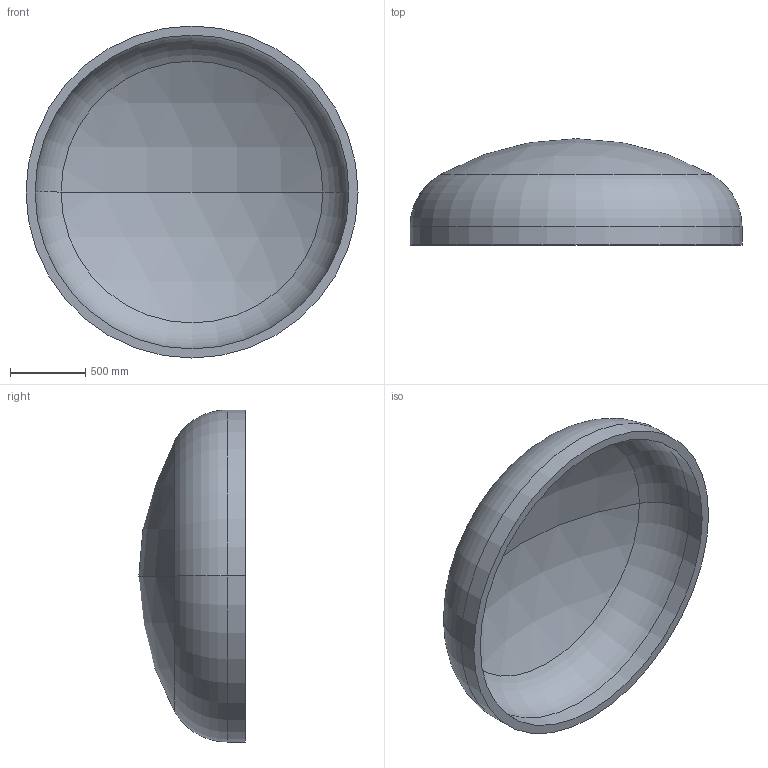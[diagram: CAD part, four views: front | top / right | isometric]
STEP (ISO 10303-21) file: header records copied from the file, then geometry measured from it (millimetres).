
FILE_DESCRIPTION (( 'STEP AP203' ), '1' );
FILE_NAME ('DIN 28013 Korbbogenform_-_Boden DIN 28013 - 2200 x 120 - I - s=60.step', '2016-07-01T14:43:15', ( '' ), ( '' ), 'SwSTEP 2.0', 'SolidWorks 2013', '' );
FILE_SCHEMA (( 'CONFIG_CONTROL_DESIGN' ));
Length unit declared in the file: millimetre
Products named in the file (1): DIN 28013 Korbbogenform_-_Boden DIN 28013 - 2200 x 120 - I - s=60
Bounding box: 2200 x 704.52 x 2200 mm (x, y, z)
Volume: 353428297.9 mm3; surface area: 12191859.9 mm2
Topology: 1 solids, 1 shells, 13 faces, 24 edges, 14 vertices
Faces by surface type: torus 4, cylinder 4, sphere 4, plane 1
Entity records: 407 total; most frequent: DIRECTION 72, CARTESIAN_POINT 52, ORIENTED_EDGE 48, AXIS2_PLACEMENT_3D 34, EDGE_CURVE 24, CIRCLE 20, VERTEX_POINT 14, EDGE_LOOP 14
